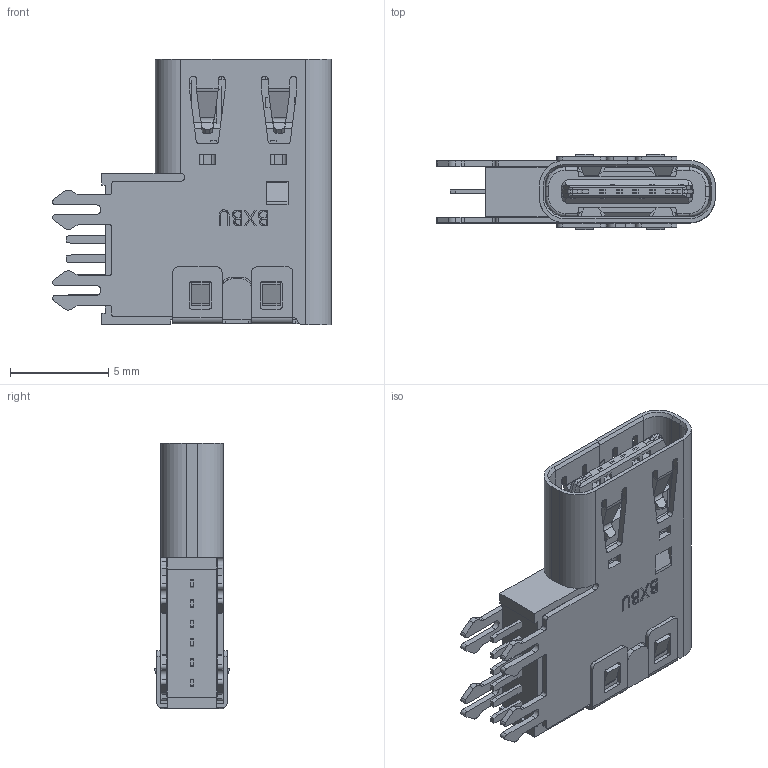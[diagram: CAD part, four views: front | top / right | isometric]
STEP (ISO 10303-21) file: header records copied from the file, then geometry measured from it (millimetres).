
FILE_DESCRIPTION (( 'STEP AP203' ), '1' );
FILE_NAME ('U5073-06PNTY2.7G13.5L.STEP', '2026-09-21T03:14:45', ( '' ), ( '' ), 'SwSTEP 2.0', 'SolidWorks 2024', '' );
FILE_SCHEMA (( 'CONFIG_CONTROL_DESIGN' ));
Length unit declared in the file: millimetre
Products named in the file (1): U5073-06PNTY2.7G13.5L
Bounding box: 14.16 x 3.83 x 13.5 mm (x, y, z)
Volume: 328.8 mm3; surface area: 1330.9 mm2
Topology: 18 solids, 18 shells, 1158 faces, 3193 edges, 2076 vertices
Faces by surface type: plane 771, cylinder 326, bspline 45, cone 12, torus 4
Entity records: 38975 total; most frequent: CARTESIAN_POINT 9130, ORIENTED_EDGE 6386, DIRECTION 5929, EDGE_CURVE 3193, LINE 2435, VECTOR 2435, VERTEX_POINT 2076, AXIS2_PLACEMENT_3D 1747
